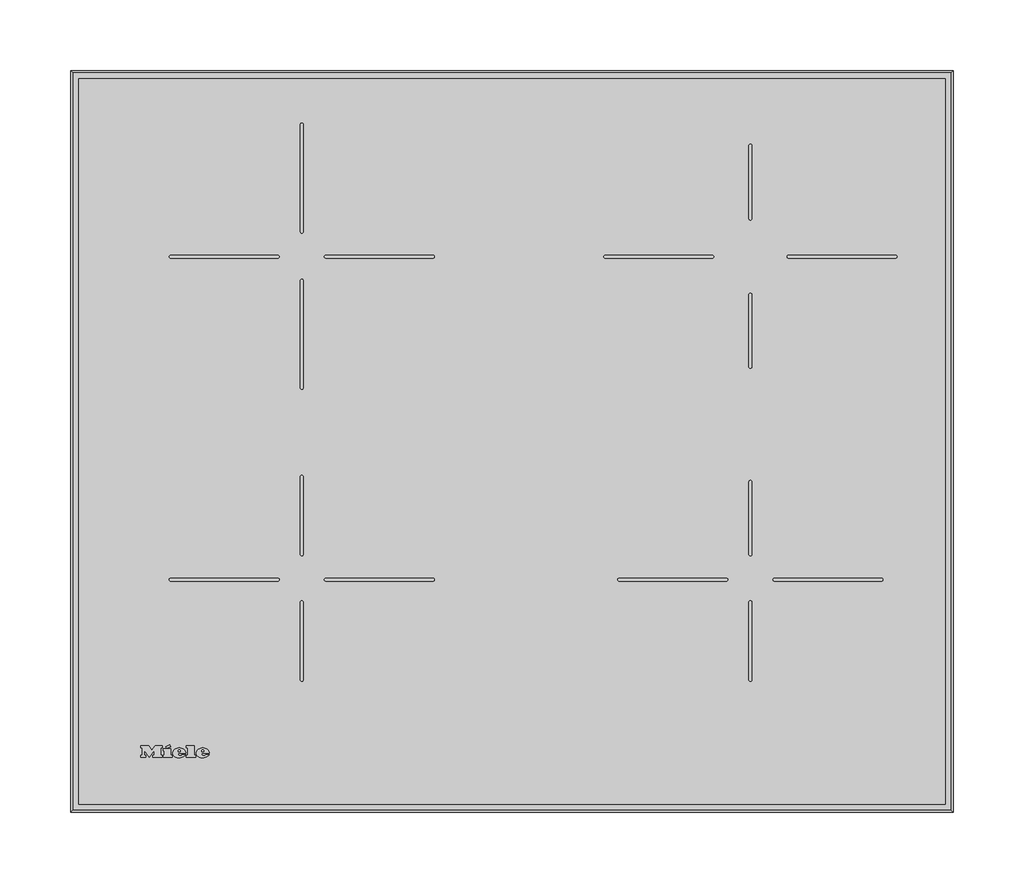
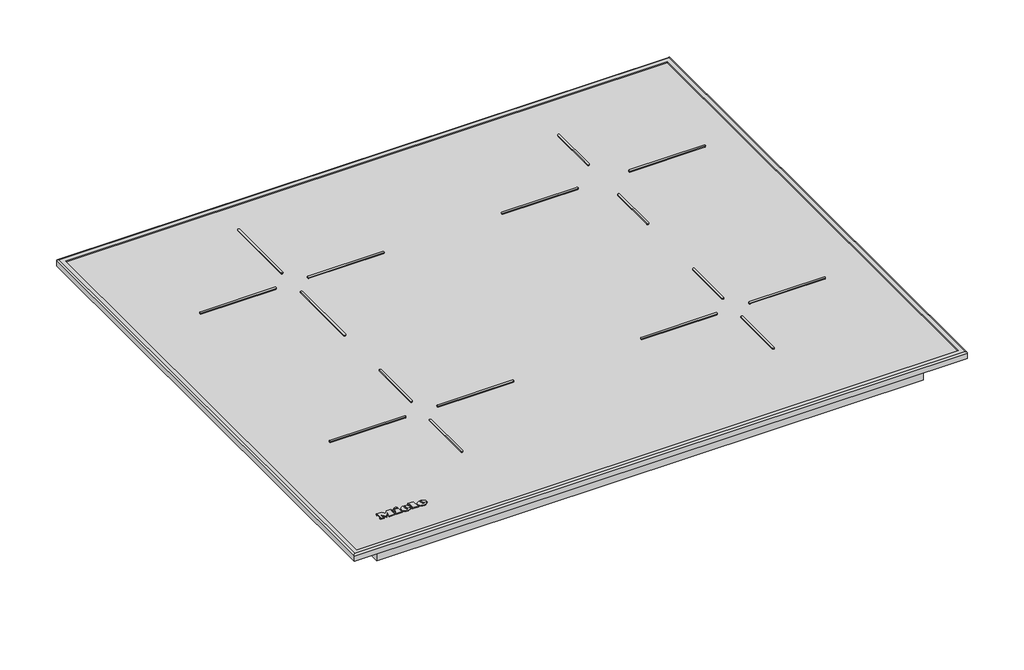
# Not in any storey: 1 proxy.
"""IFC4 building model written with IfcOpenShell, lengths in millimetres."""

import ifcopenshell
import ifcopenshell.guid

model = None  # the IFC model being written
_history = None  # IfcOwnerHistory: only IFC2X3 demands one
_inside = {}  # id of a spatial element -> (the spatial element, [elements in it])
_under = {}  # id of a project, library or spatial element -> (it, [spatial elements below it])
_declared = {}  # id of a project -> (the project, [libraries it declares])
_typed = {}  # id of a type object -> (the type object, [elements of that type])
_made_of = {}  # id of a material, layer set ... -> (it, [elements and type objects made of it])


def new_model(schema):
    """Start an empty IFC model of exactly this schema.

    Asked for "IFC4X3", IfcOpenShell would pick the latest addendum, in which some entities
    have other attributes; the version numbers below select the first issue.
    IFC2X3 requires an IfcOwnerHistory on every rooted entity: one is made here for all.
    """
    global model, _history
    if schema == "IFC4X3":
        model = ifcopenshell.file(schema_version=(4, 3, 0, 0))
    else:
        model = ifcopenshell.file(schema=schema)
    _inside.clear()
    _under.clear()
    _declared.clear()
    _typed.clear()
    _made_of.clear()
    _history = None
    if model.schema == "IFC2X3":
        org = make("IfcOrganization", Name="unknown")
        user = make(
            "IfcPersonAndOrganization",
            ThePerson=make("IfcPerson", FamilyName="unknown"),
            TheOrganization=org,
        )
        app = make(
            "IfcApplication",
            ApplicationDeveloper=org,
            Version="unknown",
            ApplicationFullName="unknown",
            ApplicationIdentifier="unknown",
        )
        _history = make(
            "IfcOwnerHistory",
            OwningUser=user,
            OwningApplication=app,
            ChangeAction="ADDED",
            CreationDate=0,
        )
    return model


def make(cls, **values):
    """One entity of the class cls with the attributes given. An attribute that is None is left unset."""
    return model.create_entity(
        cls, **{name: value for name, value in values.items() if value is not None}
    )


def rooted(cls, **values):
    """An entity with a GlobalId (a new one), such as an element, a storey or a relation."""
    return make(cls, GlobalId=ifcopenshell.guid.new(), OwnerHistory=_history, **values)


def si_unit(unit_type, name, prefix=None):
    """IfcSIUnit, for example si_unit("LENGTHUNIT", "METRE", prefix="MILLI")."""
    return make("IfcSIUnit", UnitType=unit_type, Prefix=prefix, Name=name)


def assignment(units):
    """IfcUnitAssignment: the units of a project."""
    return None if units is None else make("IfcUnitAssignment", Units=units)


def point(xyz):
    """IfcCartesianPoint."""
    return None if xyz is None else make("IfcCartesianPoint", Coordinates=xyz)


def direction(xyz):
    """IfcDirection."""
    return None if xyz is None else make("IfcDirection", DirectionRatios=xyz)


def frame(location, z_axis=None, x_axis=None):
    """IfcAxis2Placement3D, a coordinate frame: its origin and axes. An axis left out is left unset."""
    return make(
        "IfcAxis2Placement3D",
        Location=point(location),
        Axis=direction(z_axis),
        RefDirection=direction(x_axis),
    )


def frame_2d(location, x_axis=None):
    """IfcAxis2Placement2D, a coordinate frame in the plane: its origin and x axis."""
    return make(
        "IfcAxis2Placement2D", Location=point(location), RefDirection=direction(x_axis)
    )


def origin():
    """The frame at (0, 0, 0) with its axes left unset."""
    return frame((0.0, 0.0, 0.0))


def origin_with_axes():
    """The frame at (0, 0, 0) with the z axis (0, 0, 1) and the x axis (1, 0, 0) written out."""
    return frame((0.0, 0.0, 0.0), z_axis=(0.0, 0.0, 1.0), x_axis=(1.0, 0.0, 0.0))


def place(relative_to, where):
    """IfcLocalPlacement: puts the frame where relative to a parent placement (None: the world)."""
    return make(
        "IfcLocalPlacement", PlacementRelTo=relative_to, RelativePlacement=where
    )


def context(
    kind, dimensions, precision=None, world=None, true_north=None, identifier=None
):
    """IfcGeometricRepresentationContext, for example the 3D "Model" context."""
    return make(
        "IfcGeometricRepresentationContext",
        ContextIdentifier=identifier,
        ContextType=kind,
        CoordinateSpaceDimension=dimensions,
        Precision=precision,
        WorldCoordinateSystem=world,
        TrueNorth=true_north,
    )


def project(units=None, contexts=None):
    """IfcProject with its units and contexts."""
    return rooted(
        "IfcProject",
        Name="project",
        RepresentationContexts=contexts,
        UnitsInContext=assignment(units),
    )


def spatial(cls, under=None, at=None, **own):
    """A site, building, storey or space (cls), placed at a placement, below another one or the project."""
    s = rooted(cls, ObjectPlacement=at, **own)
    if under is not None:
        _under.setdefault(under.id(), (under, []))[1].append(s)
    return s


def polyline(points):
    """IfcPolyline through the points."""
    return make("IfcPolyline", Points=[point(p) for p in points])


def circle_curve(where, radius):
    """IfcCircle in the frame where."""
    return make("IfcCircle", Position=where, Radius=radius)


def ellipse_curve(where, semi_axis1, semi_axis2):
    """IfcEllipse in the frame where."""
    return make(
        "IfcEllipse", Position=where, SemiAxis1=semi_axis1, SemiAxis2=semi_axis2
    )


def trimmed(basis, trim1, trim2, sense, master):
    """IfcTrimmedCurve: the piece of a basis curve between two trims."""
    return make(
        "IfcTrimmedCurve",
        BasisCurve=basis,
        Trim1=trim1,
        Trim2=trim2,
        SenseAgreement=sense,
        MasterRepresentation=master,
    )


def segment(curve, same_sense, transition):
    """IfcCompositeCurveSegment."""
    return make(
        "IfcCompositeCurveSegment",
        Transition=transition,
        SameSense=same_sense,
        ParentCurve=curve,
    )


def composite_curve(segments, self_intersect=None):
    """IfcCompositeCurve: segments joined end to end."""
    return make("IfcCompositeCurve", Segments=segments, SelfIntersect=self_intersect)


def outline(outer, holes=None, kind="AREA"):
    """IfcArbitraryClosedProfileDef: a profile drawn as a closed curve; with holes, ...WithVoids."""
    if holes is None:
        return make("IfcArbitraryClosedProfileDef", ProfileType=kind, OuterCurve=outer)
    return make(
        "IfcArbitraryProfileDefWithVoids",
        ProfileType=kind,
        OuterCurve=outer,
        InnerCurves=holes,
    )


def extrude(swept, where, along, depth):
    """IfcExtrudedAreaSolid: the profile swept, set in the frame where, extruded along a direction by depth."""
    return make(
        "IfcExtrudedAreaSolid",
        SweptArea=swept,
        Position=where,
        ExtrudedDirection=direction(along),
        Depth=depth,
    )


def shape(context_of_items, identifier, shape_type, items):
    """IfcShapeRepresentation: the items that make up one representation, for example the "Body"."""
    return make(
        "IfcShapeRepresentation",
        ContextOfItems=context_of_items,
        RepresentationIdentifier=identifier,
        RepresentationType=shape_type,
        Items=items,
    )


def source(mapping_origin, context_of_items, identifier, shape_type, items):
    """IfcRepresentationMap: a shape defined once, which mapped items show again and again."""
    return make(
        "IfcRepresentationMap",
        MappingOrigin=mapping_origin,
        MappedRepresentation=shape(context_of_items, identifier, shape_type, items),
    )


def transform(
    local_origin,
    x_axis=None,
    y_axis=None,
    z_axis=None,
    scale=None,
    scale2=None,
    scale3=None,
    uniform=True,
):
    """IfcCartesianTransformationOperator3D, or its non-uniform kind. x_axis, y_axis, z_axis: its Axis1, 2, 3."""
    if uniform:
        return make(
            "IfcCartesianTransformationOperator3D",
            Axis1=direction(x_axis),
            Axis2=direction(y_axis),
            LocalOrigin=point(local_origin),
            Scale=scale,
            Axis3=direction(z_axis),
        )
    return make(
        "IfcCartesianTransformationOperator3DnonUniform",
        Axis1=direction(x_axis),
        Axis2=direction(y_axis),
        LocalOrigin=point(local_origin),
        Scale=scale,
        Axis3=direction(z_axis),
        Scale2=scale2,
        Scale3=scale3,
    )


def mapped(mapping_source, mapping_target):
    """IfcMappedItem: shows the shape of a source again, moved by a transform."""
    return make(
        "IfcMappedItem", MappingSource=mapping_source, MappingTarget=mapping_target
    )


def made_of(thing, what):
    """Note that an element or type object is made of a material, layer set ...; save() writes the relation."""
    if what is not None:
        _made_of.setdefault(what.id(), (what, []))[1].append(thing)
    return thing


def element(
    cls,
    number,
    at=None,
    inside=None,
    cuts=None,
    type_object=None,
    material=None,
    context=None,
    identifier="Body",
    shape_type=None,
    held_by="IfcProductDefinitionShape",
    body=None,
    shapes=None,
    **own,
):
    """One element of the class cls, such as IfcWall. Its Tag is "e" and its number.

    at: its placement. inside: the storey or other place that contains it. cuts: it is an
    opening in that element (IfcRelVoidsElement). A single representation is given by context,
    identifier, shape_type and body (its items); several are given by shapes. held_by: the class
    of the entity that holds the representations. save() writes the other relations.
    """
    e = rooted(cls, Tag="e%d" % number, ObjectPlacement=at, **own)
    if body is not None:
        shapes = [shape(context, identifier, shape_type, body)]
    if shapes is not None:
        e.Representation = make(held_by, Representations=shapes)
    if inside is not None:
        _inside.setdefault(inside.id(), (inside, []))[1].append(e)
    if cuts is not None:
        rooted(
            "IfcRelVoidsElement", RelatingBuildingElement=cuts, RelatedOpeningElement=e
        )
    if type_object is not None:
        _typed.setdefault(type_object.id(), (type_object, []))[1].append(e)
    return made_of(e, material)


def aggregate(whole, parts):
    """IfcRelAggregates: a whole, such as a stair, and the parts it consists of."""
    return rooted("IfcRelAggregates", RelatingObject=whole, RelatedObjects=parts)


def save(model, path):
    """Write the relations noted so far, then the file.

    IfcRelAggregates (storeys below a building ...), IfcRelContainedInSpatialStructure (elements
    in a storey), IfcRelDefinesByType, IfcRelAssociatesMaterial and IfcRelDeclares: one each for
    every whole, place, type object, material and project.
    """
    for whole, parts in _under.values():
        aggregate(whole, parts)
    for where, things in _inside.values():
        rooted(
            "IfcRelContainedInSpatialStructure",
            RelatedElements=things,
            RelatingStructure=where,
        )
    for kind, things in _typed.values():
        rooted("IfcRelDefinesByType", RelatedObjects=things, RelatingType=kind)
    for what, things in _made_of.values():
        rooted("IfcRelAssociatesMaterial", RelatedObjects=things, RelatingMaterial=what)
    for by, libraries in _declared.values():
        rooted("IfcRelDeclares", RelatingContext=by, RelatedDefinitions=libraries)
    model.write(path)


def plane_surface(at):
    """IfcPlane: the flat surface through the origin of the frame at, square to its z axis."""
    return make("IfcPlane", Position=at)


def cylinder_surface(at, radius):
    """IfcCylindricalSurface: all points at the distance radius from the z axis of the frame at."""
    return make("IfcCylindricalSurface", Position=at, Radius=radius)


def revolved_surface(curve, axis_point, axis_direction):
    """IfcSurfaceOfRevolution: the curve turned about the line through axis_point along axis_direction."""
    return make(
        "IfcSurfaceOfRevolution",
        SweptCurve=make("IfcArbitraryOpenProfileDef", ProfileType="CURVE", Curve=curve),
        AxisPosition=make("IfcAxis1Placement", Location=point(axis_point), Axis=direction(axis_direction)),
    )


def extruded_surface(curve, direction_of_extrusion, depth):
    """IfcSurfaceOfLinearExtrusion: the curve pushed along a direction by depth."""
    return make(
        "IfcSurfaceOfLinearExtrusion",
        SweptCurve=make("IfcArbitraryOpenProfileDef", ProfileType="CURVE", Curve=curve),
        ExtrudedDirection=direction(direction_of_extrusion),
        Depth=depth,
    )


def advanced_brep(points, edges, surfaces, faces):
    """IfcAdvancedBrep: a solid bounded by faces that lie on surfaces and meet in shared edges.

    An edge is (start, end): straight between two places in points (the first is 0);
    or (start, end, curve); or (start, end, curve, False) where it runs against its curve.
    A face is (place in surfaces, loops), or (place, loops, False) where it looks against
    its surface's normal. A loop lists edges by number (the first is 1), with a minus sign
    where the edge is run from its end to its start. The first loop is the outer one.
    """
    corners = [point(p) for p in points]
    vertices = [make("IfcVertexPoint", VertexGeometry=c) for c in corners]
    made = []
    for start, end, *more in edges:
        made.append(
            make(
                "IfcEdgeCurve",
                EdgeStart=vertices[start],
                EdgeEnd=vertices[end],
                EdgeGeometry=more[0] if more else make("IfcPolyline", Points=[corners[start], corners[end]]),
                SameSense=more[1] if len(more) > 1 else True,
            )
        )
    hull = []
    for where, loops, *sense in faces:
        bounds = []
        for j, loop in enumerate(loops):
            ring = [make("IfcOrientedEdge", EdgeElement=made[abs(k) - 1], Orientation=k > 0) for k in loop]
            bounds.append(
                make(
                    "IfcFaceOuterBound" if j == 0 else "IfcFaceBound",
                    Bound=make("IfcEdgeLoop", EdgeList=ring),
                    Orientation=True,
                )
            )
        hull.append(make("IfcAdvancedFace", Bounds=bounds, FaceSurface=surfaces[where], SameSense=sense[0] if sense else True))
    return make("IfcAdvancedBrep", Outer=make("IfcClosedShell", CfsFaces=hull))


def specialty_equipment_ff3cd103(model_context):
    return source(origin(), model_context, "Body", "SolidModel", [
        advanced_brep(
        [(-219.911984, 41.066, 5.0000007), (-219.911984, 41.874, 5.0000007), (-214.559984, 41.874, 5.0000007), (-223.871984, 41.874, 5.0000007), (-221.671984, 39.17, 5.0000007), (-214.695984, 41.066, 5.0000007), (-217.111984, 41.066, 5.0000007), (-219.015984, 40.17, 5.0000007), (-219.911984, 42.898, 5.0000007), (-219.911984, 43.77, 5.0000007), (-218.543984, 43.77, 5.0000007), (-218.543984, 42.898, 5.0000007), (-219.911984, 41.066, 4.0000007), (-219.015984, 40.17, 4.0000007), (-217.111984, 41.066, 4.0000007), (-214.695984, 41.066, 4.0000007), (-221.671984, 39.17, 4.0000007), (-223.871984, 41.874, 4.0000007), (-214.559984, 41.874, 4.0000007), (-219.911984, 41.874, 4.0000007), (-219.911984, 42.898, 4.0000007), (-218.543984, 42.898, 4.0000007), (-218.543984, 43.77, 4.0000007), (-219.911984, 43.77, 4.0000007)],
        [
            (0, 1),
            (1, 2),
            (2, 3, ellipse_curve(frame((-219.215984, 41.874, 5.0000007), z_axis=(0.0, 0.0, 1.0), x_axis=(-1.0, 0.0, 0.0)), 4.656, 3.848)),
            (3, 4, circle_curve(frame((-220.7759404, 42.146, 5.0000007), z_axis=(0.0, 0.0, 1.0), x_axis=(0.0, -1.0, 0.0)), 3.1079688)),
            (4, 5, circle_curve(frame((-219.3091904, 44.258, 5.0000007), z_axis=(0.0, 0.0, 1.0), x_axis=(0.0, -1.0, 0.0)), 5.6098607)),
            (5, 6),
            (6, 7, circle_curve(frame((-218.6249252, 41.81, 5.0000007), z_axis=(0.0, 0.0, -1.0), x_axis=(0.0, -1.0, 0.0)), 1.6859795)),
            (7, 0, circle_curve(frame((-219.015984, 41.066, 5.0000007), z_axis=(0.0, 0.0, -1.0), x_axis=(0.0, -1.0, 0.0)), 0.896)),
            (8, 9),
            (9, 10, circle_curve(frame((-219.227984, 43.77, 5.0000007), z_axis=(0.0, 0.0, -1.0), x_axis=(0.0, -1.0, 0.0)), 0.684)),
            (10, 11),
            (11, 8),
            (12, 13, circle_curve(frame((-219.015984, 41.066, 4.0000007), z_axis=(0.0, 0.0, 1.0), x_axis=(0.0, -1.0, 0.0)), 0.896)),
            (13, 14, circle_curve(frame((-218.6249252, 41.81, 4.0000007), z_axis=(0.0, 0.0, 1.0), x_axis=(0.0, -1.0, 0.0)), 1.6859795)),
            (14, 15),
            (15, 16, circle_curve(frame((-219.3091904, 44.258, 4.0000007), z_axis=(0.0, 0.0, -1.0), x_axis=(0.0, -1.0, 0.0)), 5.6098607)),
            (16, 17, circle_curve(frame((-220.7759404, 42.146, 4.0000007), z_axis=(0.0, 0.0, -1.0), x_axis=(0.0, -1.0, 0.0)), 3.1079688)),
            (17, 18, ellipse_curve(frame((-219.215984, 41.874, 4.0000007), z_axis=(0.0, 0.0, -1.0), x_axis=(-1.0, 0.0, 0.0)), 4.656, 3.848)),
            (18, 19),
            (19, 12),
            (20, 21),
            (21, 22),
            (22, 23, circle_curve(frame((-219.227984, 43.77, 4.0000007), z_axis=(0.0, 0.0, 1.0), x_axis=(0.0, -1.0, 0.0)), 0.684)),
            (23, 20),
            (0, 12),
            (19, 1),
            (18, 2),
            (5, 15),
            (14, 6),
            (17, 3),
            (13, 7),
            (16, 4),
            (8, 20),
            (23, 9),
            (22, 10),
            (21, 11),
        ],
        [
            plane_surface(frame((-219.911984, 41.874, 5.0000007), z_axis=(0.0, 0.0, 1.0), x_axis=(0.0, 1.0, 0.0))),
            plane_surface(frame((-219.911984, 41.874, 4.0000007), z_axis=(0.0, 0.0, -1.0), x_axis=(0.0, -1.0, 0.0))),
            plane_surface(frame((-219.911984, 41.066, 5.0000007), z_axis=(1.0, 0.0, 0.0), x_axis=(0.0, 0.0, -1.0))),
            plane_surface(frame((-219.911984, 41.874, 5.0000007), z_axis=(0.0, -1.0, 0.0), x_axis=(0.0, 0.0, -1.0))),
            plane_surface(frame((-214.695984, 41.066, 5.0000007), z_axis=(0.0, 1.0, 0.0), x_axis=(0.0, 0.0, -1.0))),
            extruded_surface(trimmed(ellipse_curve(frame((-219.215984, 41.874, 3.0000007), z_axis=(0.0, 0.0, 1.0), x_axis=(-1.0, 0.0, 0.0)), 4.656, 3.848), [point((-214.559984, 41.874, 3.0000007))], [point((-223.871984, 41.874, 3.0000007))], True, "CARTESIAN"), (0.0, 0.0, 1.0), 1.0),
            revolved_surface(polyline([(-218.6249252, 40.1240205, 4.0000007), (-218.6249252, 40.1240205, 5.0000007)]), (-218.6249252, 41.81, 4.0000007), (0.0, 0.0, -1.0)),
            revolved_surface(polyline([(-219.015984, 40.17, 4.0000007), (-219.015984, 40.17, 5.0000007)]), (-219.015984, 41.066, 4.0000007), (0.0, 0.0, -1.0)),
            cylinder_surface(frame((-220.7759404, 42.146, 4.0000007), z_axis=(0.0, 0.0, 1.0), x_axis=(0.0, -1.0, 0.0)), 3.1079688),
            cylinder_surface(frame((-219.3091904, 44.258, 4.0000007), z_axis=(0.0, 0.0, 1.0), x_axis=(0.0, -1.0, 0.0)), 5.6098607),
            plane_surface(frame((-219.911984, 42.898, 5.0000007), z_axis=(1.0, 0.0, 0.0), x_axis=(0.0, 0.0, -1.0))),
            revolved_surface(polyline([(-219.227984, 43.086000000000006, 4.0000007), (-219.227984, 43.086000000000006, 5.0000007)]), (-219.227984, 43.77, 4.0000007), (0.0, 0.0, -1.0)),
            plane_surface(frame((-218.543984, 43.77, 5.0000007), z_axis=(-1.0, 0.0, 0.0), x_axis=(0.0, 0.0, -1.0))),
            plane_surface(frame((-218.543984, 42.898, 5.0000007), z_axis=(0.0, 1.0, 0.0), x_axis=(0.0, 0.0, -1.0))),
        ],
        [
            (0, [[1, 2, 3, 4, 5, 6, 7, 8], [9, 10, 11, 12]]),
            (1, [[13, 14, 15, 16, 17, 18, 19, 20], [21, 22, 23, 24]]),
            (2, [[-1, 25, -20, 26]]),
            (3, [[-2, -26, -19, 27]]),
            (4, [[-6, 28, -15, 29]]),
            (5, [[-3, -27, -18, 30]]),
            (6, [[-7, -29, -14, 31]]),
            (7, [[-8, -31, -13, -25]]),
            (8, [[-4, -30, -17, 32]]),
            (9, [[-5, -32, -16, -28]]),
            (10, [[-9, 33, -24, 34]]),
            (11, [[-10, -34, -23, 35]]),
            (12, [[-11, -35, -22, 36]]),
            (13, [[-12, -36, -21, -33]]),
        ],
    ),
        advanced_brep(
        [(-236.607984, 41.066, 5.0000007), (-236.607984, 41.874, 5.0000007), (-231.255984, 41.874, 5.0000007), (-240.567984, 41.874, 5.0000007), (-238.367984, 39.17, 5.0000007), (-231.391984, 41.066, 5.0000007), (-233.807984, 41.066, 5.0000007), (-235.711984, 40.17, 5.0000007), (-236.607984, 42.898, 5.0000007), (-236.607984, 43.77, 5.0000007), (-235.239984, 43.77, 5.0000007), (-235.239984, 42.898, 5.0000007), (-236.607984, 41.066, 4.0000007), (-235.711984, 40.17, 4.0000007), (-233.807984, 41.066, 4.0000007), (-231.391984, 41.066, 4.0000007), (-238.367984, 39.17, 4.0000007), (-240.567984, 41.874, 4.0000007), (-231.255984, 41.874, 4.0000007), (-236.607984, 41.874, 4.0000007), (-236.607984, 42.898, 4.0000007), (-235.239984, 42.898, 4.0000007), (-235.239984, 43.77, 4.0000007), (-236.607984, 43.77, 4.0000007)],
        [
            (0, 1),
            (1, 2),
            (2, 3, ellipse_curve(frame((-235.911984, 41.874, 5.0000007), z_axis=(0.0, 0.0, 1.0), x_axis=(-1.0, 0.0, 0.0)), 4.656, 3.848)),
            (3, 4, circle_curve(frame((-237.4719404, 42.146, 5.0000007), z_axis=(0.0, 0.0, 1.0), x_axis=(0.0, -1.0, 0.0)), 3.1079688)),
            (4, 5, circle_curve(frame((-236.0051904, 44.258, 5.0000007), z_axis=(0.0, 0.0, 1.0), x_axis=(0.0, -1.0, 0.0)), 5.6098607)),
            (5, 6),
            (6, 7, circle_curve(frame((-235.3209252, 41.81, 5.0000007), z_axis=(0.0, 0.0, -1.0), x_axis=(0.0, -1.0, 0.0)), 1.6859795)),
            (7, 0, circle_curve(frame((-235.711984, 41.066, 5.0000007), z_axis=(0.0, 0.0, -1.0), x_axis=(0.0, -1.0, 0.0)), 0.896)),
            (8, 9),
            (9, 10, circle_curve(frame((-235.923984, 43.77, 5.0000007), z_axis=(0.0, 0.0, -1.0), x_axis=(0.0, -1.0, 0.0)), 0.684)),
            (10, 11),
            (11, 8),
            (12, 13, circle_curve(frame((-235.711984, 41.066, 4.0000007), z_axis=(0.0, 0.0, 1.0), x_axis=(0.0, -1.0, 0.0)), 0.896)),
            (13, 14, circle_curve(frame((-235.3209252, 41.81, 4.0000007), z_axis=(0.0, 0.0, 1.0), x_axis=(0.0, -1.0, 0.0)), 1.6859795)),
            (14, 15),
            (15, 16, circle_curve(frame((-236.0051904, 44.258, 4.0000007), z_axis=(0.0, 0.0, -1.0), x_axis=(0.0, -1.0, 0.0)), 5.6098607)),
            (16, 17, circle_curve(frame((-237.4719404, 42.146, 4.0000007), z_axis=(0.0, 0.0, -1.0), x_axis=(0.0, -1.0, 0.0)), 3.1079688)),
            (17, 18, ellipse_curve(frame((-235.911984, 41.874, 4.0000007), z_axis=(0.0, 0.0, -1.0), x_axis=(-1.0, 0.0, 0.0)), 4.656, 3.848)),
            (18, 19),
            (19, 12),
            (20, 21),
            (21, 22),
            (22, 23, circle_curve(frame((-235.923984, 43.77, 4.0000007), z_axis=(0.0, 0.0, 1.0), x_axis=(0.0, -1.0, 0.0)), 0.684)),
            (23, 20),
            (0, 12),
            (19, 1),
            (18, 2),
            (5, 15),
            (14, 6),
            (17, 3),
            (13, 7),
            (16, 4),
            (8, 20),
            (23, 9),
            (22, 10),
            (21, 11),
        ],
        [
            plane_surface(frame((-236.607984, 41.874, 5.0000007), z_axis=(0.0, 0.0, 1.0), x_axis=(0.0, 1.0, 0.0))),
            plane_surface(frame((-236.607984, 41.874, 4.0000007), z_axis=(0.0, 0.0, -1.0), x_axis=(0.0, -1.0, 0.0))),
            plane_surface(frame((-236.607984, 41.066, 5.0000007), z_axis=(1.0, 0.0, 0.0), x_axis=(0.0, 0.0, -1.0))),
            plane_surface(frame((-236.607984, 41.874, 5.0000007), z_axis=(0.0, -1.0, 0.0), x_axis=(0.0, 0.0, -1.0))),
            plane_surface(frame((-231.391984, 41.066, 5.0000007), z_axis=(0.0, 1.0, 0.0), x_axis=(0.0, 0.0, -1.0))),
            extruded_surface(trimmed(ellipse_curve(frame((-235.911984, 41.874, 3.0000007), z_axis=(0.0, 0.0, 1.0), x_axis=(-1.0, 0.0, 0.0)), 4.656, 3.848), [point((-231.255984, 41.874, 3.0000007))], [point((-240.567984, 41.874, 3.0000007))], True, "CARTESIAN"), (0.0, 0.0, 1.0), 1.0),
            revolved_surface(polyline([(-235.3209252, 40.1240205, 4.0000007), (-235.3209252, 40.1240205, 5.0000007)]), (-235.3209252, 41.81, 4.0000007), (0.0, 0.0, -1.0)),
            revolved_surface(polyline([(-235.711984, 40.17, 4.0000007), (-235.711984, 40.17, 5.0000007)]), (-235.711984, 41.066, 4.0000007), (0.0, 0.0, -1.0)),
            cylinder_surface(frame((-237.4719404, 42.146, 4.0000007), z_axis=(0.0, 0.0, 1.0), x_axis=(0.0, -1.0, 0.0)), 3.1079688),
            cylinder_surface(frame((-236.0051904, 44.258, 4.0000007), z_axis=(0.0, 0.0, 1.0), x_axis=(0.0, -1.0, 0.0)), 5.6098607),
            plane_surface(frame((-236.607984, 42.898, 5.0000007), z_axis=(1.0, 0.0, 0.0), x_axis=(0.0, 0.0, -1.0))),
            revolved_surface(polyline([(-235.923984, 43.086000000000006, 4.0000007), (-235.923984, 43.086000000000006, 5.0000007)]), (-235.923984, 43.77, 4.0000007), (0.0, 0.0, -1.0)),
            plane_surface(frame((-235.239984, 43.77, 5.0000007), z_axis=(-1.0, 0.0, 0.0), x_axis=(0.0, 0.0, -1.0))),
            plane_surface(frame((-235.239984, 42.898, 5.0000007), z_axis=(0.0, 1.0, 0.0), x_axis=(0.0, 0.0, -1.0))),
        ],
        [
            (0, [[1, 2, 3, 4, 5, 6, 7, 8], [9, 10, 11, 12]]),
            (1, [[13, 14, 15, 16, 17, 18, 19, 20], [21, 22, 23, 24]]),
            (2, [[-1, 25, -20, 26]]),
            (3, [[-2, -26, -19, 27]]),
            (4, [[-6, 28, -15, 29]]),
            (5, [[-3, -27, -18, 30]]),
            (6, [[-7, -29, -14, 31]]),
            (7, [[-8, -31, -13, -25]]),
            (8, [[-4, -30, -17, 32]]),
            (9, [[-5, -32, -16, -28]]),
            (10, [[-9, 33, -24, 34]]),
            (11, [[-10, -34, -23, 35]]),
            (12, [[-11, -35, -22, 36]]),
            (13, [[-12, -36, -21, -33]]),
        ],
    ),
        extrude(outline(polyline([(-245.351984, 46.698), (-242.631984, 47.962), (-242.031984, 46.666), (-244.743984, 45.402), (-245.351984, 46.698)])), frame((0.0, 0.0, 4.0000007), z_axis=(0.0, 0.0, 1.0), x_axis=(1.0, 0.0, 0.0)), (0.0, 0.0, 1.0), 1.0),
        extrude(outline(polyline([(-247.327984, 45.226), (-241.943984, 45.226), (-241.943984, 40.514), (-241.015984, 40.514), (-241.015984, 39.17), (-247.327984, 39.17), (-247.327984, 40.514), (-246.375984, 40.514), (-246.375984, 43.794), (-247.327984, 43.794), (-247.327984, 45.226)])), frame((0.0, 0.0, 4.0000007), z_axis=(0.0, 0.0, 1.0), x_axis=(1.0, 0.0, 0.0)), (0.0, 0.0, 1.0), 1.0),
        extrude(outline(polyline([(-230.807984, 45.866), (-230.807984, 47.17), (-225.303984, 47.17), (-225.303984, 40.514), (-224.319984, 40.514), (-224.319984, 39.17), (-230.807984, 39.17), (-230.807984, 40.514), (-229.847984, 40.514), (-229.847984, 45.866), (-230.807984, 45.866)])), frame((0.0, 0.0, 4.0000007), z_axis=(0.0, 0.0, 1.0), x_axis=(1.0, 0.0, 0.0)), (0.0, 0.0, 1.0), 1.0),
        extrude(outline(polyline([(-263.271984, 45.866), (-263.271984, 47.17), (-257.695984, 47.17), (-255.351984, 44.17), (-253.015984, 47.17), (-248.143984, 47.17), (-248.143984, 45.866), (-249.159984, 45.866), (-249.159984, 40.514), (-248.143984, 40.514), (-248.143984, 39.17), (-254.527984, 39.17), (-254.527984, 40.514), (-253.543984, 40.514), (-253.543984, 43.9852223), (-257.135984, 39.17), (-260.711984, 43.9171247), (-260.711984, 40.514), (-259.751984, 40.514), (-259.751984, 39.17), (-263.271984, 39.17), (-263.271984, 40.514), (-262.303984, 40.514), (-262.303984, 45.866), (-263.271984, 45.866)])), frame((0.0, 0.0, 4.0000007), z_axis=(0.0, 0.0, 1.0), x_axis=(1.0, 0.0, 0.0)), (0.0, 0.0, 1.0), 1.0),
        extrude(outline(composite_curve([segment(trimmed(circle_curve(frame_2d((-56.0, 394.0)), 1.0), [point((-56.0, 395.0))], [point((-56.0, 393.0))], False, "CARTESIAN"), True, "CONTINUOUS"), segment(polyline([(-56.0, 393.0), (-132.0, 393.0)]), True, "CONTINUOUS"), segment(trimmed(circle_curve(frame_2d((-132.0, 394.0)), 1.0), [point((-132.0, 393.0))], [point((-132.0, 395.0))], False, "CARTESIAN"), True, "CONTINUOUS"), segment(polyline([(-132.0, 395.0), (-56.0, 395.0)]), True, "CONTINUOUS")], self_intersect=False)), frame((0.0, 0.0, 4.0000007), z_axis=(0.0, 0.0, 1.0), x_axis=(1.0, 0.0, 0.0)), (0.0, 0.0, 1.0), 1.0),
        extrude(outline(composite_curve([segment(polyline([(-242.0, 395.0), (-166.0, 395.0)]), True, "CONTINUOUS"), segment(trimmed(circle_curve(frame_2d((-166.0, 394.0)), 1.0), [point((-166.0, 395.0))], [point((-166.0, 393.0))], False, "CARTESIAN"), True, "CONTINUOUS"), segment(polyline([(-166.0, 393.0), (-242.0, 393.0)]), True, "CONTINUOUS"), segment(trimmed(circle_curve(frame_2d((-242.0, 394.0)), 1.0), [point((-242.0, 393.0))], [point((-242.0, 395.0))], False, "CARTESIAN"), True, "CONTINUOUS")], self_intersect=False)), frame((0.0, 0.0, 4.0000007), z_axis=(0.0, 0.0, 1.0), x_axis=(1.0, 0.0, 0.0)), (0.0, 0.0, 1.0), 1.0),
        extrude(outline(composite_curve([segment(trimmed(circle_curve(frame_2d((-149.0, 487.75)), 1.0), [point((-150.0, 487.75))], [point((-148.0, 487.75))], False, "CARTESIAN"), True, "CONTINUOUS"), segment(polyline([(-148.0, 487.75), (-148.0, 411.75)]), True, "CONTINUOUS"), segment(trimmed(circle_curve(frame_2d((-149.0, 411.75)), 1.0), [point((-148.0, 411.75))], [point((-150.0, 411.75))], False, "CARTESIAN"), True, "CONTINUOUS"), segment(polyline([(-150.0, 411.75), (-150.0, 487.75)]), True, "CONTINUOUS")], self_intersect=False)), frame((0.0, 0.0, 4.0000007), z_axis=(0.0, 0.0, 1.0), x_axis=(1.0, 0.0, 0.0)), (0.0, 0.0, 1.0), 1.0),
        extrude(outline(composite_curve([segment(polyline([(-150.0, 301.0), (-150.0, 377.0)]), True, "CONTINUOUS"), segment(trimmed(circle_curve(frame_2d((-149.0, 377.0)), 1.0), [point((-150.0, 377.0))], [point((-148.0, 377.0))], False, "CARTESIAN"), True, "CONTINUOUS"), segment(polyline([(-148.0, 377.0), (-148.0, 301.0)]), True, "CONTINUOUS"), segment(trimmed(circle_curve(frame_2d((-149.0, 301.0)), 1.0), [point((-148.0, 301.0))], [point((-150.0, 301.0))], False, "CARTESIAN"), True, "CONTINUOUS")], self_intersect=False)), frame((0.0, 0.0, 4.0000007), z_axis=(0.0, 0.0, 1.0), x_axis=(1.0, 0.0, 0.0)), (0.0, 0.0, 1.0), 1.0),
        extrude(outline(composite_curve([segment(polyline([(66.0, 395.0), (142.0, 395.0)]), True, "CONTINUOUS"), segment(trimmed(circle_curve(frame_2d((142.0, 394.0)), 1.0), [point((142.0, 395.0))], [point((142.0, 393.0))], False, "CARTESIAN"), True, "CONTINUOUS"), segment(polyline([(142.0, 393.0), (66.0, 393.0)]), True, "CONTINUOUS"), segment(trimmed(circle_curve(frame_2d((66.0, 394.0)), 1.0), [point((66.0, 393.0))], [point((66.0, 395.0))], False, "CARTESIAN"), True, "CONTINUOUS")], self_intersect=False)), frame((0.0, 0.0, 4.0000007), z_axis=(0.0, 0.0, 1.0), x_axis=(1.0, 0.0, 0.0)), (0.0, 0.0, 1.0), 1.0),
        extrude(outline(composite_curve([segment(trimmed(circle_curve(frame_2d((272.0, 394.0)), 1.0), [point((272.0, 395.0))], [point((272.0, 393.0))], False, "CARTESIAN"), True, "CONTINUOUS"), segment(polyline([(272.0, 393.0), (196.0, 393.0)]), True, "CONTINUOUS"), segment(trimmed(circle_curve(frame_2d((196.0, 394.0)), 1.0), [point((196.0, 393.0))], [point((196.0, 395.0))], False, "CARTESIAN"), True, "CONTINUOUS"), segment(polyline([(196.0, 395.0), (272.0, 395.0)]), True, "CONTINUOUS")], self_intersect=False)), frame((0.0, 0.0, 4.0000007), z_axis=(0.0, 0.0, 1.0), x_axis=(1.0, 0.0, 0.0)), (0.0, 0.0, 1.0), 1.0),
        extrude(outline(composite_curve([segment(polyline([(170.0, 472.75), (170.0, 421.0)]), True, "CONTINUOUS"), segment(trimmed(circle_curve(frame_2d((169.0, 421.0)), 1.0), [point((170.0, 421.0))], [point((168.0, 421.0))], False, "CARTESIAN"), True, "CONTINUOUS"), segment(polyline([(168.0, 421.0), (168.0, 472.75)]), True, "CONTINUOUS"), segment(trimmed(circle_curve(frame_2d((169.0, 472.75)), 1.0), [point((168.0, 472.75))], [point((170.0, 472.75))], False, "CARTESIAN"), True, "CONTINUOUS")], self_intersect=False)), frame((0.0, 0.0, 4.0000007), z_axis=(0.0, 0.0, 1.0), x_axis=(1.0, 0.0, 0.0)), (0.0, 0.0, 1.0), 1.0),
        extrude(outline(composite_curve([segment(trimmed(circle_curve(frame_2d((169.0, 316.0)), 1.0), [point((170.0, 316.0))], [point((168.0, 316.0))], False, "CARTESIAN"), True, "CONTINUOUS"), segment(polyline([(168.0, 316.0), (168.0, 367.0)]), True, "CONTINUOUS"), segment(trimmed(circle_curve(frame_2d((169.0, 367.0)), 1.0), [point((168.0, 367.0))], [point((170.0, 367.0))], False, "CARTESIAN"), True, "CONTINUOUS"), segment(polyline([(170.0, 367.0), (170.0, 316.0)]), True, "CONTINUOUS")], self_intersect=False)), frame((0.0, 0.0, 4.0000007), z_axis=(0.0, 0.0, 1.0), x_axis=(1.0, 0.0, 0.0)), (0.0, 0.0, 1.0), 1.0),
        extrude(outline(composite_curve([segment(polyline([(-56.0, 164.0), (-132.0, 164.0)]), True, "CONTINUOUS"), segment(trimmed(circle_curve(frame_2d((-132.0, 165.0)), 1.0), [point((-132.0, 164.0))], [point((-132.0, 166.0))], False, "CARTESIAN"), True, "CONTINUOUS"), segment(polyline([(-132.0, 166.0), (-56.0, 166.0)]), True, "CONTINUOUS"), segment(trimmed(circle_curve(frame_2d((-56.0, 165.0)), 1.0), [point((-56.0, 166.0))], [point((-56.0, 164.0))], False, "CARTESIAN"), True, "CONTINUOUS")], self_intersect=False)), frame((0.0, 0.0, 4.0000007), z_axis=(0.0, 0.0, 1.0), x_axis=(1.0, 0.0, 0.0)), (0.0, 0.0, 1.0), 1.0),
        extrude(outline(composite_curve([segment(trimmed(circle_curve(frame_2d((-242.0, 165.0)), 1.0), [point((-242.0, 164.0))], [point((-242.0, 166.0))], False, "CARTESIAN"), True, "CONTINUOUS"), segment(polyline([(-242.0, 166.0), (-166.0, 166.0)]), True, "CONTINUOUS"), segment(trimmed(circle_curve(frame_2d((-166.0, 165.0)), 1.0), [point((-166.0, 166.0))], [point((-166.0, 164.0))], False, "CARTESIAN"), True, "CONTINUOUS"), segment(polyline([(-166.0, 164.0), (-242.0, 164.0)]), True, "CONTINUOUS")], self_intersect=False)), frame((0.0, 0.0, 4.0000007), z_axis=(0.0, 0.0, 1.0), x_axis=(1.0, 0.0, 0.0)), (0.0, 0.0, 1.0), 1.0),
        extrude(outline(composite_curve([segment(polyline([(-150.0, 94.0), (-150.0, 149.0)]), True, "CONTINUOUS"), segment(trimmed(circle_curve(frame_2d((-149.0, 149.0)), 1.0), [point((-150.0, 149.0))], [point((-148.0, 149.0))], False, "CARTESIAN"), True, "CONTINUOUS"), segment(polyline([(-148.0, 149.0), (-148.0, 94.0)]), True, "CONTINUOUS"), segment(trimmed(circle_curve(frame_2d((-149.0, 94.0)), 1.0), [point((-148.0, 94.0))], [point((-150.0, 94.0))], False, "CARTESIAN"), True, "CONTINUOUS")], self_intersect=False)), frame((0.0, 0.0, 4.0000007), z_axis=(0.0, 0.0, 1.0), x_axis=(1.0, 0.0, 0.0)), (0.0, 0.0, 1.0), 1.0),
        extrude(outline(composite_curve([segment(trimmed(circle_curve(frame_2d((-149.0, 238.0)), 1.0), [point((-150.0, 238.0))], [point((-148.0, 238.0))], False, "CARTESIAN"), True, "CONTINUOUS"), segment(polyline([(-148.0, 238.0), (-148.0, 183.0)]), True, "CONTINUOUS"), segment(trimmed(circle_curve(frame_2d((-149.0, 183.0)), 1.0), [point((-148.0, 183.0))], [point((-150.0, 183.0))], False, "CARTESIAN"), True, "CONTINUOUS"), segment(polyline([(-150.0, 183.0), (-150.0, 238.0)]), True, "CONTINUOUS")], self_intersect=False)), frame((0.0, 0.0, 4.0000007), z_axis=(0.0, 0.0, 1.0), x_axis=(1.0, 0.0, 0.0)), (0.0, 0.0, 1.0), 1.0),
        extrude(outline(composite_curve([segment(trimmed(circle_curve(frame_2d((76.0, 165.0)), 1.0), [point((76.0, 164.0))], [point((76.0, 166.0))], False, "CARTESIAN"), True, "CONTINUOUS"), segment(polyline([(76.0, 166.0), (152.0, 166.0)]), True, "CONTINUOUS"), segment(trimmed(circle_curve(frame_2d((152.0, 165.0)), 1.0), [point((152.0, 166.0))], [point((152.0, 164.0))], False, "CARTESIAN"), True, "CONTINUOUS"), segment(polyline([(152.0, 164.0), (76.0, 164.0)]), True, "CONTINUOUS")], self_intersect=False)), frame((0.0, 0.0, 4.0000007), z_axis=(0.0, 0.0, 1.0), x_axis=(1.0, 0.0, 0.0)), (0.0, 0.0, 1.0), 1.0),
        extrude(outline(composite_curve([segment(polyline([(262.0, 164.0), (186.0, 164.0)]), True, "CONTINUOUS"), segment(trimmed(circle_curve(frame_2d((186.0, 165.0)), 1.0), [point((186.0, 164.0))], [point((186.0, 166.0))], False, "CARTESIAN"), True, "CONTINUOUS"), segment(polyline([(186.0, 166.0), (262.0, 166.0)]), True, "CONTINUOUS"), segment(trimmed(circle_curve(frame_2d((262.0, 165.0)), 1.0), [point((262.0, 166.0))], [point((262.0, 164.0))], False, "CARTESIAN"), True, "CONTINUOUS")], self_intersect=False)), frame((0.0, 0.0, 4.0000007), z_axis=(0.0, 0.0, 1.0), x_axis=(1.0, 0.0, 0.0)), (0.0, 0.0, 1.0), 1.0),
        extrude(outline(composite_curve([segment(trimmed(circle_curve(frame_2d((169.0, 94.0)), 1.0), [point((170.0, 94.0))], [point((168.0, 94.0))], False, "CARTESIAN"), True, "CONTINUOUS"), segment(polyline([(168.0, 94.0), (168.0, 149.0)]), True, "CONTINUOUS"), segment(trimmed(circle_curve(frame_2d((169.0, 149.0)), 1.0), [point((168.0, 149.0))], [point((170.0, 149.0))], False, "CARTESIAN"), True, "CONTINUOUS"), segment(polyline([(170.0, 149.0), (170.0, 94.0)]), True, "CONTINUOUS")], self_intersect=False)), frame((0.0, 0.0, 4.0000007), z_axis=(0.0, 0.0, 1.0), x_axis=(1.0, 0.0, 0.0)), (0.0, 0.0, 1.0), 1.0),
        extrude(outline(composite_curve([segment(polyline([(170.0, 234.3524804), (170.0, 183.0)]), True, "CONTINUOUS"), segment(trimmed(circle_curve(frame_2d((169.0, 183.0)), 1.0), [point((170.0, 183.0))], [point((168.0, 183.0))], False, "CARTESIAN"), True, "CONTINUOUS"), segment(polyline([(168.0, 183.0), (168.0, 234.3524804)]), True, "CONTINUOUS"), segment(trimmed(circle_curve(frame_2d((169.0, 234.3524804)), 1.0), [point((168.0, 234.3524804))], [point((170.0, 234.3524804))], False, "CARTESIAN"), True, "CONTINUOUS")], self_intersect=False)), frame((0.0, 0.0, 4.0000007), z_axis=(0.0, 0.0, 1.0), x_axis=(1.0, 0.0, 0.0)), (0.0, 0.0, 1.0), 1.0),
        advanced_brep(
        [(313.0, 526.0, 0.0), (313.0, 526.0, 5.5271728), (313.0, 0.0, 5.5271728), (313.0, 0.0, 0.0), (311.5271728, 524.5271728, 5.8817013), (311.5271728, 524.5271728, 0.0), (311.5271728, 1.4728272, 0.0), (311.5271728, 1.4728272, 5.8817013), (307.2139587, 520.2139587, 7.0), (307.2139587, 520.2139587, 5.8817013), (307.2139587, 5.7860413, 5.8817013), (307.2139587, 5.7860413, 7.0), (311.5271728, 524.5271728, 7.0), (311.5271728, 1.4728272, 7.0), (-313.0, 0.0, 5.5271728), (-313.0, 0.0, 0.0), (-311.5271728, 1.4728272, 0.0), (-311.5271728, 1.4728272, 5.8817013), (-307.2139587, 5.7860413, 5.8817013), (-307.2139587, 5.7860413, 7.0), (-311.5271728, 1.4728272, 7.0), (-313.0, 526.0, 5.5271728), (-313.0, 526.0, 0.0), (-311.5271728, 524.5271728, 0.0), (-311.5271728, 524.5271728, 5.8817013), (-307.2139587, 520.2139587, 5.8817013), (-307.2139587, 520.2139587, 7.0), (-311.5271728, 524.5271728, 7.0)],
        [
            (0, 1),
            (1, 2),
            (2, 3),
            (3, 0),
            (4, 5),
            (5, 6),
            (6, 7),
            (7, 4),
            (8, 9),
            (9, 10),
            (10, 11),
            (11, 8),
            (1, 12, ellipse_curve(frame((311.5271728, 524.5271728, 5.5271728), z_axis=(0.7071067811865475, -0.7071067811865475, 0.0), x_axis=(0.7071067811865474, 0.7071067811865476, 0.0)), 2.0828921, 1.4728272)),
            (12, 13),
            (13, 2, ellipse_curve(frame((311.5271728, 1.4728272, 5.5271728), z_axis=(0.7071067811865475, 0.7071067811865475, 0.0), x_axis=(-0.7071067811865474, 0.7071067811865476, 0.0)), 2.0828921, 1.4728272)),
            (2, 14),
            (14, 15),
            (15, 3),
            (6, 16),
            (16, 17),
            (17, 7),
            (10, 18),
            (18, 19),
            (19, 11),
            (13, 20),
            (20, 14, ellipse_curve(frame((-311.5271728, 1.4728272, 5.5271728), z_axis=(0.7071067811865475, -0.7071067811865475, 0.0), x_axis=(0.7071067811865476, 0.7071067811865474, 0.0)), 2.0828921, 1.4728272)),
            (14, 21),
            (21, 22),
            (22, 15),
            (16, 23),
            (23, 24),
            (24, 17),
            (18, 25),
            (25, 26),
            (26, 19),
            (20, 27),
            (27, 21, ellipse_curve(frame((-311.5271728, 524.5271728, 5.5271728), z_axis=(-0.7071067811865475, -0.7071067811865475, 0.0), x_axis=(0.7071067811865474, -0.7071067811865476, 0.0)), 2.0828921, 1.4728272)),
            (21, 1),
            (0, 22),
            (5, 23),
            (4, 24),
            (9, 25),
            (8, 26),
            (12, 27),
        ],
        [
            plane_surface(frame((313.0, 526.0, 5.5271728), z_axis=(1.0, 0.0, 0.0), x_axis=(0.0, -1.0, 0.0))),
            plane_surface(frame((311.5271728, 524.5271728, 0.0), z_axis=(-1.0, 0.0, 0.0), x_axis=(0.0, -1.0, 0.0))),
            plane_surface(frame((307.2139587, 520.2139587, 5.8817013), z_axis=(-1.0, 0.0, 0.0), x_axis=(0.0, -1.0, 0.0))),
            cylinder_surface(frame((311.5271728, 526.0, 5.5271728), z_axis=(0.0, 1.0, 0.0), x_axis=(1.0, 0.0, 0.0)), 1.4728272),
            plane_surface(frame((313.0, 0.0, 5.5271728), z_axis=(0.0, -1.0, 0.0), x_axis=(-1.0, 0.0, 0.0))),
            plane_surface(frame((311.5271728, 1.4728272, 0.0), z_axis=(0.0, 1.0, 0.0), x_axis=(-1.0, 0.0, 0.0))),
            plane_surface(frame((307.2139587, 5.7860413, 5.8817013), z_axis=(0.0, 1.0, 0.0), x_axis=(-1.0, 0.0, 0.0))),
            cylinder_surface(frame((313.0, 1.4728272, 5.5271728), z_axis=(1.0, 0.0, 0.0), x_axis=(0.0, -1.0, 0.0)), 1.4728272),
            plane_surface(frame((-313.0, 0.0, 5.5271728), z_axis=(-1.0, 0.0, 0.0), x_axis=(0.0, 1.0, 0.0))),
            plane_surface(frame((-311.5271728, 1.4728272, 0.0), z_axis=(1.0, 0.0, 0.0), x_axis=(0.0, 1.0, 0.0))),
            plane_surface(frame((-307.2139587, 5.7860413, 5.8817013), z_axis=(1.0, 0.0, 0.0), x_axis=(0.0, 1.0, 0.0))),
            cylinder_surface(frame((-311.5271728, 0.0, 5.5271728), z_axis=(0.0, -1.0, 0.0), x_axis=(-1.0, 0.0, 0.0)), 1.4728272),
            plane_surface(frame((-313.0, 526.0, 5.5271728), z_axis=(0.0, 1.0, 0.0), x_axis=(1.0, 0.0, 0.0))),
            plane_surface(frame((-313.0, 526.0, 0.0), z_axis=(0.0, 0.0, -1.0), x_axis=(1.0, 0.0, 0.0))),
            plane_surface(frame((-311.5271728, 524.5271728, 0.0), z_axis=(0.0, -1.0, 0.0), x_axis=(1.0, 0.0, 0.0))),
            plane_surface(frame((-311.5271728, 524.5271728, 5.8817013), z_axis=(0.0, 0.0, -1.0), x_axis=(1.0, 0.0, 0.0))),
            plane_surface(frame((-307.2139587, 520.2139587, 5.8817013), z_axis=(0.0, -1.0, 0.0), x_axis=(1.0, 0.0, 0.0))),
            plane_surface(frame((-307.2139587, 520.2139587, 7.0), z_axis=(0.0, 0.0, 1.0), x_axis=(1.0, 0.0, 0.0))),
            cylinder_surface(frame((-313.0, 524.5271728, 5.5271728), z_axis=(-1.0, 0.0, 0.0), x_axis=(0.0, 1.0, 0.0)), 1.4728272),
        ],
        [
            (0, [[1, 2, 3, 4]]),
            (1, [[5, 6, 7, 8]]),
            (2, [[9, 10, 11, 12]]),
            (3, [[13, 14, 15, -2]]),
            (4, [[-3, 16, 17, 18]]),
            (5, [[-7, 19, 20, 21]]),
            (6, [[-11, 22, 23, 24]]),
            (7, [[-15, 25, 26, -16]]),
            (8, [[-17, 27, 28, 29]]),
            (9, [[-20, 30, 31, 32]]),
            (10, [[-23, 33, 34, 35]]),
            (11, [[-26, 36, 37, -27]]),
            (12, [[-28, 38, -1, 39]]),
            (13, [[-18, -29, -39, -4], [40, -30, -19, -6]]),
            (14, [[-31, -40, -5, 41]]),
            (15, [[-21, -32, -41, -8], [42, -33, -22, -10]]),
            (16, [[-34, -42, -9, 43]]),
            (17, [[44, -36, -25, -14], [-24, -35, -43, -12]]),
            (18, [[-37, -44, -13, -38]]),
        ],
    ),
        extrude(outline(polyline([(226.7938197, 483.0), (226.7938197, 365.7202614), (229.0, 365.7202614), (229.0, 79.0), (-64.0, 79.0), (-64.0, 483.0), (226.7938197, 483.0)])), frame((0.0, 0.0, -49.1723575), z_axis=(0.0, 0.0, 1.0), x_axis=(1.0, 0.0, 0.0)), (0.0, 0.0, 1.0), 26.1723575),
        extrude(outline(polyline([(279.0, 507.0), (279.0, 19.0), (-279.0, 19.0), (-279.0, 507.0), (279.0, 507.0)])), frame((0.0, 0.0, -23.0), z_axis=(0.0, 0.0, 1.0), x_axis=(1.0, 0.0, 0.0)), (0.0, 0.0, 1.0), 23.0),
        extrude(outline(polyline([(309.75, 523.0), (309.75, 3.0), (-309.75, 3.0), (-309.75, 523.0), (309.75, 523.0)])), origin_with_axes(), (0.0, 0.0, 1.0), 4.0000007),
        extrude(outline(polyline([(229.6227397, 386.1708126), (237.0, 386.1708126), (237.0, 384.9151088), (230.8784436, 384.9151088), (230.8784436, 381.6188861), (236.529111, 381.6188861), (236.529111, 380.3631822), (230.8784436, 380.3631822), (230.8784436, 377.3808855), (236.843037, 377.3808855), (236.843037, 376.1251816), (229.6227397, 376.1251816), (229.6227397, 386.1708126)])), frame((0.0, 0.0, -55.9814925), z_axis=(0.0, 0.0, 1.0), x_axis=(1.0, 0.0, 0.0)), (0.0, 0.0, 1.0), 1.0),
        extrude(outline(polyline([(238.8835558, 386.1708126), (245.1620752, 386.1708126), (245.1620752, 384.9151088), (240.1392597, 384.9151088), (240.1392597, 376.1251816), (238.8835558, 376.1251816), (238.8835558, 386.1708126)])), frame((0.0, 0.0, -55.9814925), z_axis=(0.0, 0.0, 1.0), x_axis=(1.0, 0.0, 0.0)), (0.0, 0.0, 1.0), 1.0),
        advanced_brep(
        [(214.0, 381.1708126, -42.9814925), (214.0, 381.1708126, -26.9814925), (228.7476293, 381.1708126, -42.9814925), (244.7476293, 381.1708126, -26.9814925), (228.7476293, 381.1708126, -54.9814925), (244.7476293, 381.1708126, -54.9814925)],
        [
            (0, 1, circle_curve(frame((214.0, 381.1708126, -34.9814925), z_axis=(-1.0, 0.0, 0.0), x_axis=(0.0, 0.0, 1.0)), 8.0)),
            (1, 0, circle_curve(frame((214.0, 381.1708126, -34.9814925), z_axis=(-1.0, 0.0, 0.0), x_axis=(0.0, 0.0, 1.0)), 8.0)),
            (0, 2),
            (2, 3, ellipse_curve(frame((236.7476293, 381.1708126, -34.9814925), z_axis=(-0.7071067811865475, 0.0, 0.7071067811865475), x_axis=(-0.7071067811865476, 0.0, -0.7071067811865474)), 11.3137085, 8.0)),
            (3, 1),
            (3, 2, ellipse_curve(frame((236.7476293, 381.1708126, -34.9814925), z_axis=(-0.7071067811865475, 0.0, 0.7071067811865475), x_axis=(-0.7071067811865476, 0.0, -0.7071067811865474)), 11.3137085, 8.0)),
            (4, 5, circle_curve(frame((236.7476293, 381.1708126, -54.9814925), z_axis=(0.0, 0.0, -1.0), x_axis=(1.0, 0.0, 0.0)), 8.0)),
            (5, 4, circle_curve(frame((236.7476293, 381.1708126, -54.9814925), z_axis=(0.0, 0.0, -1.0), x_axis=(1.0, 0.0, 0.0)), 8.0)),
            (2, 4),
            (5, 3),
        ],
        [
            plane_surface(frame((214.0, 0.0, -34.9814925), z_axis=(-1.0, 0.0, 0.0), x_axis=(0.0, -1.0, 0.0))),
            cylinder_surface(frame((214.0, 381.1708126, -34.9814925), z_axis=(-1.0, 0.0, 0.0), x_axis=(0.0, 0.0, 1.0)), 8.0),
            plane_surface(frame((236.7476293, 0.0, -54.9814925), z_axis=(0.0, 0.0, -1.0), x_axis=(0.0, -1.0, 0.0))),
            cylinder_surface(frame((236.7476293, 381.1708126, -34.9814925), z_axis=(0.0, 0.0, 1.0), x_axis=(1.0, 0.0, 0.0)), 8.0),
        ],
        [
            (0, [[1, 2]]),
            (1, [[-1, 3, 4, 5]]),
            (1, [[-2, -5, 6, -3]]),
            (2, [[7, 8]]),
            (3, [[-4, 9, -8, 10]]),
            (3, [[-6, -10, -7, -9]]),
        ],
    ),
    ])


model = new_model("IFC4")

# Units and contexts
model_context = context("Model", 3, world=origin())
ifc_project = project(units=[si_unit("LENGTHUNIT", "METRE", prefix="MILLI")], contexts=[model_context])

# Site, building
site = spatial("IfcSite", under=ifc_project)
building = spatial("IfcBuilding", under=site)

# Proxy
placement = place(None, origin())
specialty_equipment_shape = specialty_equipment_ff3cd103(model_context)
element("IfcBuildingElementProxy", 1, Name="12529430_KZ_KM7361FR : 26736110_KZ_12529430_KM7361FR", ObjectType="12529430_KZ_KM7361FR : 26736110_KZ_12529430_KM7361FR", at=placement, inside=building, context=model_context, shape_type="MappedRepresentation", body=[
    mapped(specialty_equipment_shape, transform((0.0, 0.0, 0.0), x_axis=(1.0, 0.0, 0.0), y_axis=(0.0, 1.0, 0.0), z_axis=(0.0, 0.0, 1.0))),
])

save(model, "model.ifc")
